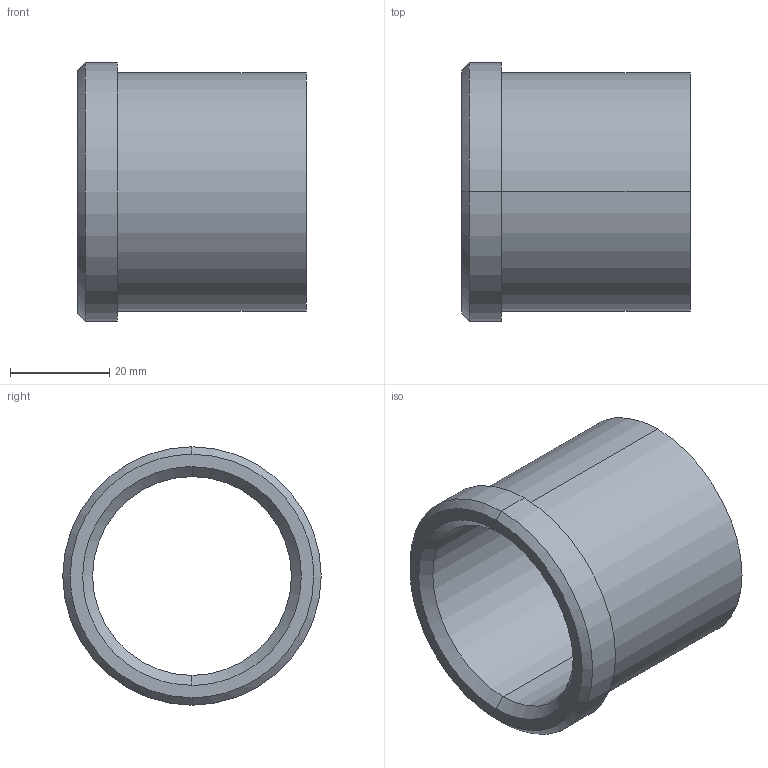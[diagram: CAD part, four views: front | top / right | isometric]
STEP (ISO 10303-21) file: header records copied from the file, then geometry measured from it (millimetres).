
FILE_DESCRIPTION(('CATIA V5 STEP Exchange'),'2;1');
FILE_NAME('C:\Users\Utente\Desktop\IO LAVORO\3D X SITO CF\X SITO\PLASTICA\353\353-40X46.stp','2021-05-13T18:27:00+00:00',('none'),('none'),'CATIA Version 5 Release 20 GA (IN-10)','CATIA V5 STEP AP203','none');
FILE_SCHEMA(('CONFIG_CONTROL_DESIGN'));
Length unit declared in the file: millimetre
Products named in the file (1): 353-40X46
Bounding box: 46 x 52 x 52 mm (x, y, z)
Volume: 27397.4 mm3; surface area: 14157.3 mm2
Topology: 1 solids, 1 shells, 15 faces, 48 edges, 36 vertices
Faces by surface type: cylinder 6, cone 4, plane 3, torus 2
Entity records: 680 total; most frequent: CARTESIAN_POINT 212, ORIENTED_EDGE 96, DIRECTION 70, EDGE_CURVE 48, AXIS2_PLACEMENT_3D 46, VERTEX_POINT 36, CIRCLE 30, EDGE_LOOP 18
